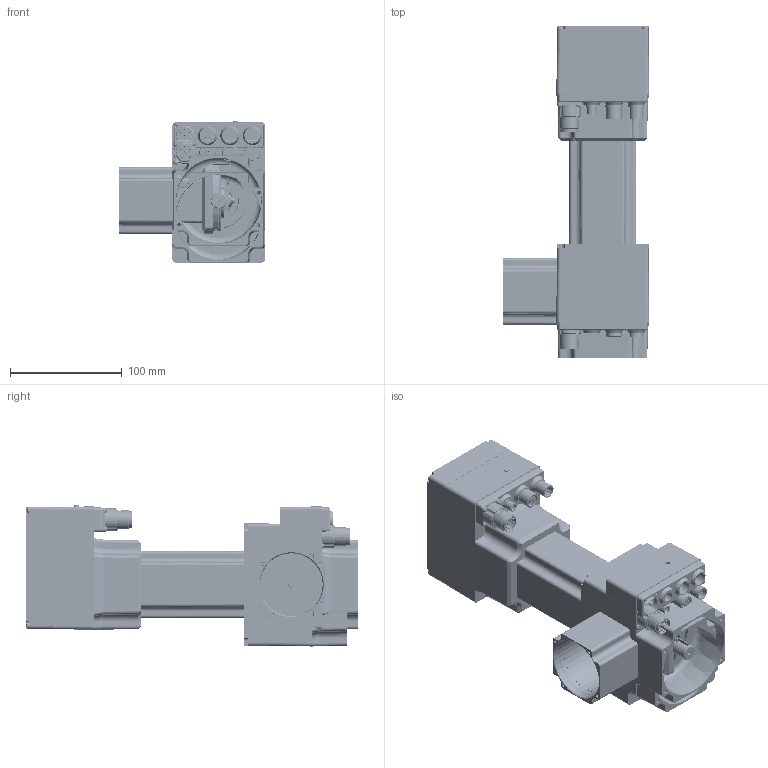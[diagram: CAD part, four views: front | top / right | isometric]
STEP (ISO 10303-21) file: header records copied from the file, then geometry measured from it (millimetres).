
FILE_DESCRIPTION( ( 'Unknown' ), '1' );
FILE_NAME( 'C:/Users/dotti/Desktop/Q0A175/Q0A175_1,3.stp', 'Unknown', ( 'Unknown' ), ( 'Unknown' ), 'PSStep 14.0', 'Unknown', ' ' );
FILE_SCHEMA( ( 'AUTOMOTIVE_DESIGN { 1 0 10303 214 1 1 1 1 }' ) );
Length unit declared in the file: millimetre
Products named in the file (50): T00273; Assem1; 005117000974; N54236; CN M23 PAN-POT BEGA 906 4+5p; VECST-8112 M  2,5 x 12; 005117000476; G00030; Anello-elastico-chiuso  32; A-Ela  15; Vite a brugola testa cil 8,8 -  M  3 x 18; Vite a brugola testa cil 8,8 -  M  3 x 18-oa0; Vite a brugola testa cil 8,8 -  M  3 x 18-oa1; Vite a brugola testa cil 8,8 -  M  3 x 18-oa2; LI-PIA   3x3 x 15; 007803003640; 007055000370; CUSC_15_32_9_6002_ZZ; CUSC_10_26_8_6000_ZZ; Vite a brugola testa cil 8,8 -  M  3 x 40; N27027; N45018; Vite a brugola testa cil 8,8 -  M  3 x 10; Anello OR 1,78 D47,37-2187-oa3; Anello OR 1,78 D47,37-2187-oa4; Anello OR 1,78 D47,37-2187-oa5; Anello OR 1,78 D72,75-2287-oa6; 005007000200; anello di rasamento 19_26_0,3; N35217; LI-PIA   5x5 x 25; Anello OR 1,78 D25,12-2100-oa7; VECST-8112 M  3 x 30; 003016000054; 003251021030; N01131; N09038; N54239
Bounding box: 130.75 x 296.88 x 126.21 mm (x, y, z)
Volume: 970871.1 mm3; surface area: 548766.9 mm2
Topology: 120 solids, 124 shells, 7898 faces, 21390 edges, 13998 vertices
Faces by surface type: plane 4250, cylinder 2694, cone 367, bspline 319, torus 219, sphere 49
Full cylindrical faces by diameter (mm): 1 x39, 1.5 x42, 1.7 x34, 2.4 x24, 2.459 x63, 2.5 x25, 2.7 x12, 2.9 x3, 3 x29, 3.242 x2, 3.5 x54, 4 x5, 4.134 x2, 4.2 x2, 5 x11, 5.5 x23, 5.65 x4, 6 x28, 8 x3, 8.5 x9, 8.75 x3, 9 x6, 9.8 x2, 10 x7, 11 x15, 11.9 x6, 12 x9, 14 x8, 14.3 x2, 14.4 x3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
Entity records: 111810 total; most frequent: CARTESIAN_POINT 29137, ORIENTED_EDGE 14302, DIRECTION 14219, EDGE_CURVE 7151, AXIS2_PLACEMENT_3D 5149, VERTEX_POINT 4900, LINE 3921, VECTOR 3921
